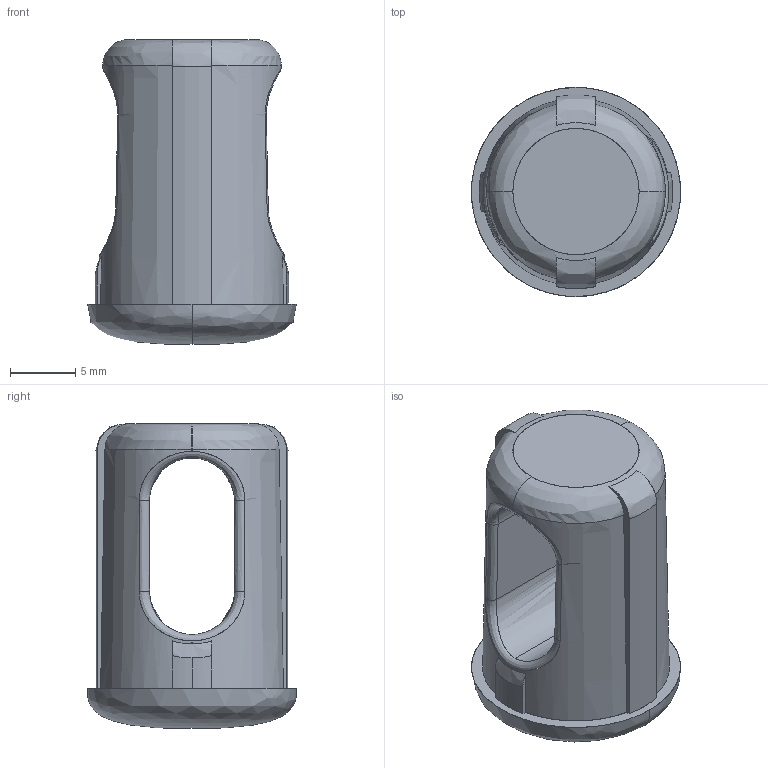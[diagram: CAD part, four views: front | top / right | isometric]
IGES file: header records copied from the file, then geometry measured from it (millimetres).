
Start section: SolidWorks IGES file using analytic representation for surfaces
Global section: file name: R:\DESIGN STORE\PRODUCTS\INDOOR AIRING\C0249 Bed Bath & Beyond X-Wing\stage 1\solidworks\C2\C0249 Iges 091013\C0249_106_C2_mech mount tube cap_A.IGS; native system: SolidWorks 2013; preprocessor: SolidWorks 2013; author: howardm; date: 131009.161628; units: millimetre
Bounding box: 16 x 16 x 23.34 mm (x, y, z)
Surface area: 1592.1 mm2 (no closed solid volume)
Topology: 0 solids, 0 shells, 39 faces, 523 edges, 521 vertices
Faces by surface type: bspline 28, revolution 11
